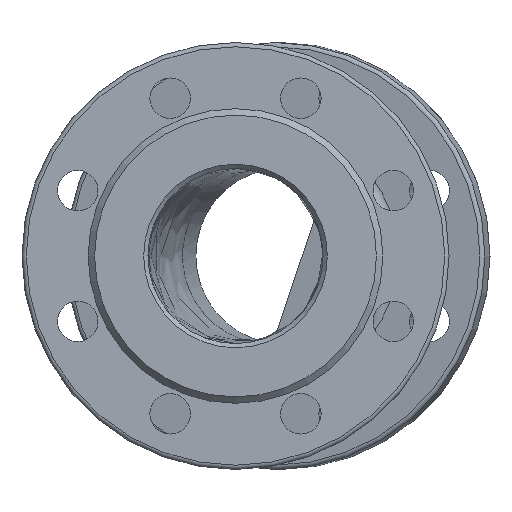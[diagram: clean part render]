
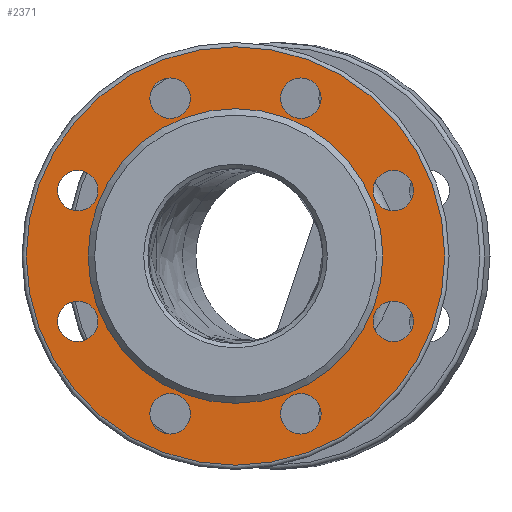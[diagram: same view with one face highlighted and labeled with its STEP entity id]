
A CAD part, left-side view. The second image highlights one B-rep face of the part: STEP entity #2371.
In plain terms, the highlighted planar face has unit normal (-1, 0, 0).
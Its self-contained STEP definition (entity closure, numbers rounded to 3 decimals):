
#13 = DIRECTION ( 'NONE',  ( 0., 0., 1. ) ) ;
#21 = ORIENTED_EDGE ( 'NONE', *, *, #3253, .F. ) ;
#27 = DIRECTION ( 'NONE',  ( -1., 0., 0. ) ) ;
#55 = CIRCLE ( 'NONE', #404, 9.5 ) ;
#74 = DIRECTION ( 'NONE',  ( 0., 0., -1. ) ) ;
#121 = ORIENTED_EDGE ( 'NONE', *, *, #3206, .F. ) ;
#173 = AXIS2_PLACEMENT_3D ( 'NONE', #821, #414, #2123 ) ;
#193 = CIRCLE ( 'NONE', #3612, 9.5 ) ;
#224 = CIRCLE ( 'NONE', #2139, 9.5 ) ;
#236 = DIRECTION ( 'NONE',  ( 0., 0., -1. ) ) ;
#267 = FACE_BOUND ( 'NONE', #3561, .T. ) ;
#318 = EDGE_LOOP ( 'NONE', ( #121 ) ) ;
#323 = VERTEX_POINT ( 'NONE', #625 ) ;
#334 = EDGE_CURVE ( 'NONE', #4063, #4063, #1672, .T. ) ;
#338 = CIRCLE ( 'NONE', #3824, 9.5 ) ;
#367 = VERTEX_POINT ( 'NONE', #4202 ) ;
#373 = ORIENTED_EDGE ( 'NONE', *, *, #1612, .F. ) ;
#375 = EDGE_CURVE ( 'NONE', #2150, #2150, #3043, .T. ) ;
#400 = AXIS2_PLACEMENT_3D ( 'NONE', #938, #3559, #1240 ) ;
#404 = AXIS2_PLACEMENT_3D ( 'NONE', #3262, #27, #74 ) ;
#414 = DIRECTION ( 'NONE',  ( -1., 0., 0. ) ) ;
#557 = DIRECTION ( 'NONE',  ( -1., 0., 0. ) ) ;
#570 = DIRECTION ( 'NONE',  ( -1., 0., 0. ) ) ;
#612 = FACE_BOUND ( 'NONE', #2386, .T. ) ;
#625 = CARTESIAN_POINT ( 'NONE',  ( 3., 30.615, -83.41 ) ) ;
#683 = CARTESIAN_POINT ( 'NONE',  ( 3., -30.615, 64.41 ) ) ;
#706 = VERTEX_POINT ( 'NONE', #993 ) ;
#821 = CARTESIAN_POINT ( 'NONE',  ( 3., 0., 0. ) ) ;
#895 = DIRECTION ( 'NONE',  ( 0., 0., -1. ) ) ;
#903 = EDGE_CURVE ( 'NONE', #1572, #1572, #4076, .T. ) ;
#916 = FACE_BOUND ( 'NONE', #3347, .T. ) ;
#923 = DIRECTION ( 'NONE',  ( -1., 0., 0. ) ) ;
#938 = CARTESIAN_POINT ( 'NONE',  ( 3., 73.91, -30.615 ) ) ;
#945 = CIRCLE ( 'NONE', #400, 9.5 ) ;
#993 = CARTESIAN_POINT ( 'NONE',  ( 3., 73.91, 21.115 ) ) ;
#1018 = FACE_BOUND ( 'NONE', #1120, .T. ) ;
#1071 = DIRECTION ( 'NONE',  ( 0., 0., -1. ) ) ;
#1120 = EDGE_LOOP ( 'NONE', ( #21 ) ) ;
#1172 = CARTESIAN_POINT ( 'NONE',  ( 3., 0., -98. ) ) ;
#1240 = DIRECTION ( 'NONE',  ( 0., 0., -1. ) ) ;
#1244 = CARTESIAN_POINT ( 'NONE',  ( 3., -30.615, -73.91 ) ) ;
#1403 = AXIS2_PLACEMENT_3D ( 'NONE', #4149, #3807, #2162 ) ;
#1454 = ORIENTED_EDGE ( 'NONE', *, *, #3082, .F. ) ;
#1462 = ORIENTED_EDGE ( 'NONE', *, *, #903, .F. ) ;
#1527 = CARTESIAN_POINT ( 'NONE',  ( 3., 30.615, 64.41 ) ) ;
#1533 = PLANE ( 'NONE',  #3036 ) ;
#1539 = AXIS2_PLACEMENT_3D ( 'NONE', #2237, #2277, #13 ) ;
#1557 = DIRECTION ( 'NONE',  ( 0., 0., -1. ) ) ;
#1568 = EDGE_LOOP ( 'NONE', ( #2807 ) ) ;
#1572 = VERTEX_POINT ( 'NONE', #2532 ) ;
#1580 = CARTESIAN_POINT ( 'NONE',  ( 3., -30.615, 73.91 ) ) ;
#1612 = EDGE_CURVE ( 'NONE', #4159, #4159, #224, .T. ) ;
#1672 = CIRCLE ( 'NONE', #173, 98. ) ;
#1697 = VERTEX_POINT ( 'NONE', #683 ) ;
#1758 = ORIENTED_EDGE ( 'NONE', *, *, #4043, .F. ) ;
#1829 = EDGE_LOOP ( 'NONE', ( #1462 ) ) ;
#1869 = CARTESIAN_POINT ( 'NONE',  ( 3., 30.615, 73.91 ) ) ;
#1880 = FACE_OUTER_BOUND ( 'NONE', #3070, .T. ) ;
#1964 = DIRECTION ( 'NONE',  ( -1., 0., 0. ) ) ;
#1992 = FACE_BOUND ( 'NONE', #318, .T. ) ;
#2031 = EDGE_LOOP ( 'NONE', ( #1454 ) ) ;
#2123 = DIRECTION ( 'NONE',  ( 0., 0., -1. ) ) ;
#2139 = AXIS2_PLACEMENT_3D ( 'NONE', #1244, #923, #2903 ) ;
#2150 = VERTEX_POINT ( 'NONE', #2188 ) ;
#2162 = DIRECTION ( 'NONE',  ( 0., 0., -1. ) ) ;
#2173 = FACE_BOUND ( 'NONE', #2031, .T. ) ;
#2186 = EDGE_LOOP ( 'NONE', ( #2936 ) ) ;
#2188 = CARTESIAN_POINT ( 'NONE',  ( 3., -73.91, -40.115 ) ) ;
#2237 = CARTESIAN_POINT ( 'NONE',  ( 3., 0., 0. ) ) ;
#2252 = VERTEX_POINT ( 'NONE', #4221 ) ;
#2277 = DIRECTION ( 'NONE',  ( -1., 0., 0. ) ) ;
#2371 = ADVANCED_FACE ( 'NONE', ( #1880, #3183, #2876, #1992, #2173, #612, #916, #4145, #267, #1018 ), #1533, .F. ) ;
#2386 = EDGE_LOOP ( 'NONE', ( #1758 ) ) ;
#2515 = DIRECTION ( 'NONE',  ( 1., 0., 0. ) ) ;
#2526 = EDGE_CURVE ( 'NONE', #3155, #3155, #338, .T. ) ;
#2532 = CARTESIAN_POINT ( 'NONE',  ( 3., 0., 69. ) ) ;
#2807 = ORIENTED_EDGE ( 'NONE', *, *, #2526, .F. ) ;
#2810 = CARTESIAN_POINT ( 'NONE',  ( 3., -30.615, -83.41 ) ) ;
#2876 = FACE_BOUND ( 'NONE', #1568, .T. ) ;
#2903 = DIRECTION ( 'NONE',  ( 0., 0., -1. ) ) ;
#2936 = ORIENTED_EDGE ( 'NONE', *, *, #375, .F. ) ;
#2944 = CARTESIAN_POINT ( 'NONE',  ( 3., -73.91, 30.615 ) ) ;
#3036 = AXIS2_PLACEMENT_3D ( 'NONE', #4127, #2515, #895 ) ;
#3043 = CIRCLE ( 'NONE', #1403, 9.5 ) ;
#3070 = EDGE_LOOP ( 'NONE', ( #3401 ) ) ;
#3082 = EDGE_CURVE ( 'NONE', #2252, #2252, #945, .T. ) ;
#3129 = EDGE_CURVE ( 'NONE', #367, #367, #193, .T. ) ;
#3155 = VERTEX_POINT ( 'NONE', #1527 ) ;
#3183 = FACE_BOUND ( 'NONE', #1829, .T. ) ;
#3203 = CIRCLE ( 'NONE', #3680, 9.5 ) ;
#3206 = EDGE_CURVE ( 'NONE', #706, #706, #3412, .T. ) ;
#3253 = EDGE_CURVE ( 'NONE', #1697, #1697, #3203, .T. ) ;
#3262 = CARTESIAN_POINT ( 'NONE',  ( 3., 30.615, -73.91 ) ) ;
#3288 = DIRECTION ( 'NONE',  ( -1., 0., 0. ) ) ;
#3347 = EDGE_LOOP ( 'NONE', ( #373 ) ) ;
#3401 = ORIENTED_EDGE ( 'NONE', *, *, #334, .T. ) ;
#3412 = CIRCLE ( 'NONE', #3881, 9.5 ) ;
#3559 = DIRECTION ( 'NONE',  ( -1., 0., 0. ) ) ;
#3561 = EDGE_LOOP ( 'NONE', ( #4180 ) ) ;
#3612 = AXIS2_PLACEMENT_3D ( 'NONE', #2944, #1964, #3827 ) ;
#3680 = AXIS2_PLACEMENT_3D ( 'NONE', #1580, #570, #1557 ) ;
#3807 = DIRECTION ( 'NONE',  ( -1., 0., 0. ) ) ;
#3824 = AXIS2_PLACEMENT_3D ( 'NONE', #1869, #557, #236 ) ;
#3827 = DIRECTION ( 'NONE',  ( 0., 0., -1. ) ) ;
#3881 = AXIS2_PLACEMENT_3D ( 'NONE', #4021, #3288, #1071 ) ;
#4021 = CARTESIAN_POINT ( 'NONE',  ( 3., 73.91, 30.615 ) ) ;
#4043 = EDGE_CURVE ( 'NONE', #323, #323, #55, .T. ) ;
#4063 = VERTEX_POINT ( 'NONE', #1172 ) ;
#4076 = CIRCLE ( 'NONE', #1539, 69. ) ;
#4127 = CARTESIAN_POINT ( 'NONE',  ( 3., 69., 0. ) ) ;
#4145 = FACE_BOUND ( 'NONE', #2186, .T. ) ;
#4149 = CARTESIAN_POINT ( 'NONE',  ( 3., -73.91, -30.615 ) ) ;
#4159 = VERTEX_POINT ( 'NONE', #2810 ) ;
#4180 = ORIENTED_EDGE ( 'NONE', *, *, #3129, .F. ) ;
#4202 = CARTESIAN_POINT ( 'NONE',  ( 3., -73.91, 21.115 ) ) ;
#4221 = CARTESIAN_POINT ( 'NONE',  ( 3., 73.91, -40.115 ) ) ;
